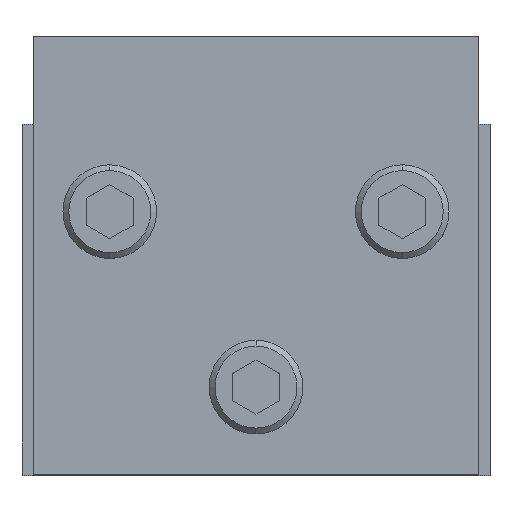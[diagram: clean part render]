
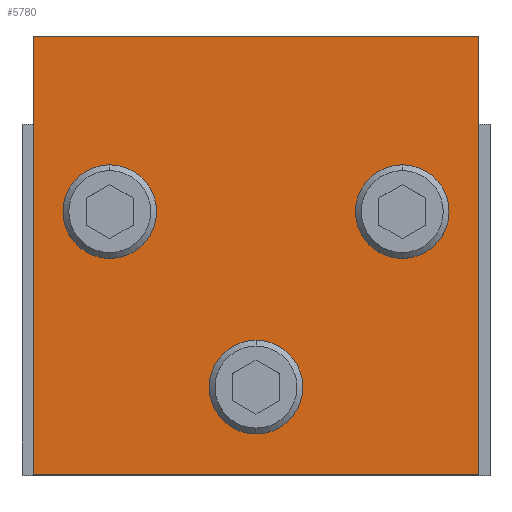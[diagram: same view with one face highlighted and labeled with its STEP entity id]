
A CAD part, top view. The second image highlights one B-rep face of the part: STEP entity #5780.
In plain terms, the highlighted planar face has unit normal (0, 0, 1).
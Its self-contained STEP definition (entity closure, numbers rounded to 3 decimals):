
#5555=VERTEX_POINT(' ',#5556);
#5556=CARTESIAN_POINT('',(38.,75.,85.));
#5557=VERTEX_POINT(' ',#5558);
#5558=CARTESIAN_POINT('',(-38.,75.,85.));
#5559=VERTEX_POINT(' ',#5560);
#5560=CARTESIAN_POINT('',(-38.,0.,85.));
#5561=VERTEX_POINT(' ',#5562);
#5562=CARTESIAN_POINT('',(38.,0.,85.));
#5563=VERTEX_POINT(' ',#5564);
#5564=CARTESIAN_POINT('',(0.,20.5,85.));
#5565=VERTEX_POINT(' ',#5566);
#5566=CARTESIAN_POINT('',(0.,9.5,85.));
#5567=VERTEX_POINT(' ',#5568);
#5568=CARTESIAN_POINT('',(-25.,50.5,85.));
#5569=VERTEX_POINT(' ',#5570);
#5570=CARTESIAN_POINT('',(-25.,39.5,85.));
#5571=VERTEX_POINT(' ',#5572);
#5572=CARTESIAN_POINT('',(25.,50.5,85.));
#5573=VERTEX_POINT(' ',#5574);
#5574=CARTESIAN_POINT('',(25.,39.5,85.));
#5595=LINE('',#5596,#5597);
#5596=CARTESIAN_POINT('',(38.,75.,85.));
#5597=VECTOR('',#5598,1.);
#5598=DIRECTION('',(-1.,0.,0.));
#5599=EDGE_CURVE(' ',#5555,#5557,#5595,.T.);
#5600=LINE('',#5601,#5602);
#5601=CARTESIAN_POINT('',(-38.,75.,85.));
#5602=VECTOR('',#5603,1.);
#5603=DIRECTION('',(0.,-1.,0.));
#5604=EDGE_CURVE(' ',#5557,#5559,#5600,.T.);
#5605=LINE('',#5606,#5607);
#5606=CARTESIAN_POINT('',(-38.,0.,85.));
#5607=VECTOR('',#5608,1.);
#5608=DIRECTION('',(1.,0.,0.));
#5609=EDGE_CURVE(' ',#5559,#5561,#5605,.T.);
#5610=LINE('',#5611,#5612);
#5611=CARTESIAN_POINT('',(38.,0.,85.));
#5612=VECTOR('',#5613,1.);
#5613=DIRECTION('',(0.,1.,0.));
#5614=EDGE_CURVE(' ',#5561,#5555,#5610,.T.);
#5615=CIRCLE('',#5616,5.5);
#5616=AXIS2_PLACEMENT_3D('',#5617,#5618,#5619);
#5617=CARTESIAN_POINT('',(0.,15.,85.));
#5618=DIRECTION('',(0.,0.,-1.));
#5619=DIRECTION('',(-1.,0.,0.));
#5620=EDGE_CURVE(' ',#5563,#5565,#5615,.T.);
#5621=CIRCLE('',#5622,5.5);
#5622=AXIS2_PLACEMENT_3D('',#5623,#5624,#5625);
#5623=CARTESIAN_POINT('',(0.,15.,85.));
#5624=DIRECTION('',(0.,0.,-1.));
#5625=DIRECTION('',(1.,0.,0.));
#5626=EDGE_CURVE(' ',#5565,#5563,#5621,.T.);
#5627=CIRCLE('',#5628,5.5);
#5628=AXIS2_PLACEMENT_3D('',#5629,#5630,#5631);
#5629=CARTESIAN_POINT('',(-25.,45.,85.));
#5630=DIRECTION('',(0.,0.,-1.));
#5631=DIRECTION('',(-1.,0.,0.));
#5632=EDGE_CURVE(' ',#5567,#5569,#5627,.T.);
#5633=CIRCLE('',#5634,5.5);
#5634=AXIS2_PLACEMENT_3D('',#5635,#5636,#5637);
#5635=CARTESIAN_POINT('',(-25.,45.,85.));
#5636=DIRECTION('',(0.,0.,-1.));
#5637=DIRECTION('',(1.,0.,0.));
#5638=EDGE_CURVE(' ',#5569,#5567,#5633,.T.);
#5639=CIRCLE('',#5640,5.5);
#5640=AXIS2_PLACEMENT_3D('',#5641,#5642,#5643);
#5641=CARTESIAN_POINT('',(25.,45.,85.));
#5642=DIRECTION('',(0.,0.,-1.));
#5643=DIRECTION('',(-1.,0.,0.));
#5644=EDGE_CURVE(' ',#5571,#5573,#5639,.T.);
#5645=CIRCLE('',#5646,5.5);
#5646=AXIS2_PLACEMENT_3D('',#5647,#5648,#5649);
#5647=CARTESIAN_POINT('',(25.,45.,85.));
#5648=DIRECTION('',(0.,0.,-1.));
#5649=DIRECTION('',(1.,0.,0.));
#5650=EDGE_CURVE(' ',#5573,#5571,#5645,.T.);
#5757=ORIENTED_EDGE('',*,*,#5599,.T.);
#5758=ORIENTED_EDGE('',*,*,#5604,.T.);
#5759=ORIENTED_EDGE('',*,*,#5609,.T.);
#5760=ORIENTED_EDGE('',*,*,#5614,.T.);
#5761=EDGE_LOOP('',(#5757,#5758,#5759,#5760));
#5762=FACE_OUTER_BOUND('',#5761,.T.);
#5763=ORIENTED_EDGE('',*,*,#5620,.T.);
#5764=ORIENTED_EDGE('',*,*,#5626,.T.);
#5765=EDGE_LOOP('',(#5763,#5764));
#5766=FACE_BOUND('',#5765,.T.);
#5767=ORIENTED_EDGE('',*,*,#5632,.T.);
#5768=ORIENTED_EDGE('',*,*,#5638,.T.);
#5769=EDGE_LOOP('',(#5767,#5768));
#5770=FACE_BOUND('',#5769,.T.);
#5771=ORIENTED_EDGE('',*,*,#5644,.T.);
#5772=ORIENTED_EDGE('',*,*,#5650,.T.);
#5773=EDGE_LOOP('',(#5771,#5772));
#5774=FACE_BOUND('',#5773,.T.);
#5775=PLANE('',#5776);
#5776=AXIS2_PLACEMENT_3D('',#5777,#5778,#5779);
#5777=CARTESIAN_POINT('',(38.,75.,85.));
#5778=DIRECTION('',(0.,0.,1.));
#5779=DIRECTION('',(1.,0.,0.));
#5780=ADVANCED_FACE('',(#5762,#5766,#5770,#5774),#5775,.T.);
